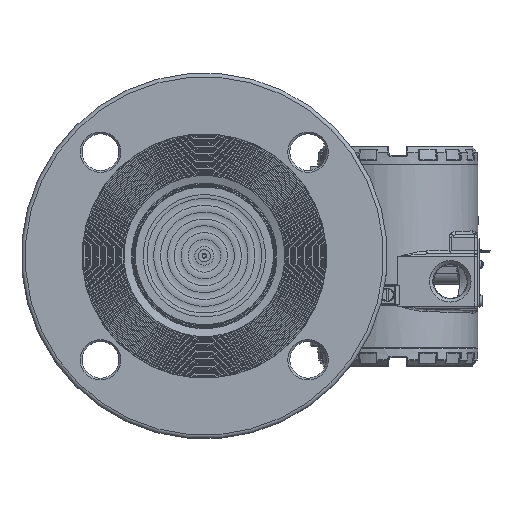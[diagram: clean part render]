
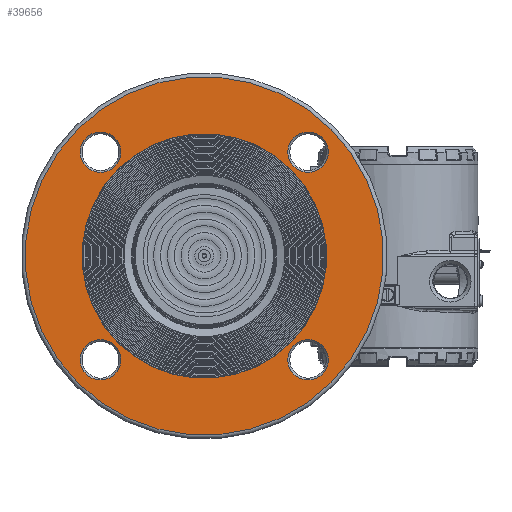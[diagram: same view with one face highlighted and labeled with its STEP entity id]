
A CAD part, top view. The second image highlights one B-rep face of the part: STEP entity #39656.
In plain terms, the highlighted planar face has unit normal (0, 0, 1).
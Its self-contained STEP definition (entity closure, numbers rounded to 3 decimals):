
#767=FACE_BOUND('',#6747,.T.);
#768=FACE_BOUND('',#6748,.T.);
#769=FACE_BOUND('',#6749,.T.);
#770=FACE_BOUND('',#6750,.T.);
#771=FACE_BOUND('',#6751,.T.);
#2813=PLANE('',#44036);
#4040=FACE_OUTER_BOUND('',#6746,.T.);
#6746=EDGE_LOOP('',(#30204));
#6747=EDGE_LOOP('',(#30205));
#6748=EDGE_LOOP('',(#30206));
#6749=EDGE_LOOP('',(#30207));
#6750=EDGE_LOOP('',(#30208));
#6751=EDGE_LOOP('',(#30209));
#12663=CIRCLE('',#44035,93.);
#12664=CIRCLE('',#44037,10.5);
#12665=CIRCLE('',#44038,10.5);
#12666=CIRCLE('',#44039,63.5);
#12667=CIRCLE('',#44040,10.5);
#12668=CIRCLE('',#44041,10.5);
#17297=VERTEX_POINT('',#70615);
#17298=VERTEX_POINT('',#70619);
#17299=VERTEX_POINT('',#70621);
#17300=VERTEX_POINT('',#70623);
#17301=VERTEX_POINT('',#70625);
#17302=VERTEX_POINT('',#70627);
#21864=EDGE_CURVE('',#17297,#17297,#12663,.T.);
#21865=EDGE_CURVE('',#17298,#17298,#12664,.T.);
#21866=EDGE_CURVE('',#17299,#17299,#12665,.T.);
#21867=EDGE_CURVE('',#17300,#17300,#12666,.T.);
#21868=EDGE_CURVE('',#17301,#17301,#12667,.T.);
#21869=EDGE_CURVE('',#17302,#17302,#12668,.T.);
#30204=ORIENTED_EDGE('',*,*,#21864,.F.);
#30205=ORIENTED_EDGE('',*,*,#21865,.F.);
#30206=ORIENTED_EDGE('',*,*,#21866,.F.);
#30207=ORIENTED_EDGE('',*,*,#21867,.F.);
#30208=ORIENTED_EDGE('',*,*,#21868,.F.);
#30209=ORIENTED_EDGE('',*,*,#21869,.F.);
#39656=ADVANCED_FACE('',(#4040,#767,#768,#769,#770,#771),#2813,.T.);
#44035=AXIS2_PLACEMENT_3D('',#70617,#52123,#52124);
#44036=AXIS2_PLACEMENT_3D('',#70618,#52125,#52126);
#44037=AXIS2_PLACEMENT_3D('',#70620,#52127,#52128);
#44038=AXIS2_PLACEMENT_3D('',#70622,#52129,#52130);
#44039=AXIS2_PLACEMENT_3D('',#70624,#52131,#52132);
#44040=AXIS2_PLACEMENT_3D('',#70626,#52133,#52134);
#44041=AXIS2_PLACEMENT_3D('',#70628,#52135,#52136);
#52123=DIRECTION('center_axis',(0.,0.,-1.));
#52124=DIRECTION('ref_axis',(-1.,0.,0.));
#52125=DIRECTION('center_axis',(0.,0.,1.));
#52126=DIRECTION('ref_axis',(1.,0.,0.));
#52127=DIRECTION('center_axis',(0.,0.,1.));
#52128=DIRECTION('ref_axis',(0.,-1.,0.));
#52129=DIRECTION('center_axis',(0.,0.,1.));
#52130=DIRECTION('ref_axis',(1.,0.,0.));
#52131=DIRECTION('center_axis',(0.,0.,1.));
#52132=DIRECTION('ref_axis',(-1.,0.,0.));
#52133=DIRECTION('center_axis',(0.,0.,1.));
#52134=DIRECTION('ref_axis',(0.,1.,0.));
#52135=DIRECTION('center_axis',(0.,0.,1.));
#52136=DIRECTION('ref_axis',(-1.,0.,0.));
#70615=CARTESIAN_POINT('',(93.,0.,22.3));
#70617=CARTESIAN_POINT('Origin',(0.,0.,22.3));
#70618=CARTESIAN_POINT('Origin',(0.,0.,
22.3));
#70619=CARTESIAN_POINT('',(-76.2,10.5,22.3));
#70620=CARTESIAN_POINT('Origin',(-76.2,0.,22.3));
#70621=CARTESIAN_POINT('',(-10.5,-76.2,22.3));
#70622=CARTESIAN_POINT('Origin',(0.,-76.2,22.3));
#70623=CARTESIAN_POINT('',(63.5,0.,22.3));
#70624=CARTESIAN_POINT('Origin',(0.,0.,22.3));
#70625=CARTESIAN_POINT('',(76.2,-10.5,22.3));
#70626=CARTESIAN_POINT('Origin',(76.2,0.,22.3));
#70627=CARTESIAN_POINT('',(10.5,76.2,22.3));
#70628=CARTESIAN_POINT('Origin',(0.,76.2,22.3));
